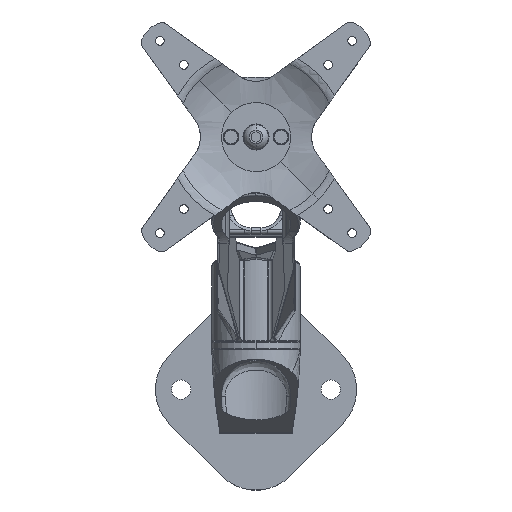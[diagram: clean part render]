
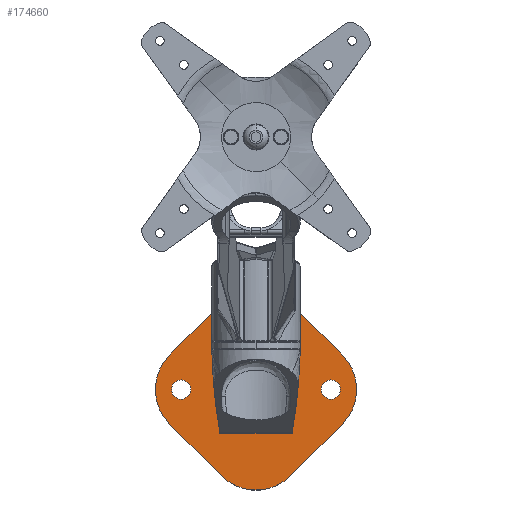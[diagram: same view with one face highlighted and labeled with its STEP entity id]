
A CAD part, top view. The second image highlights one B-rep face of the part: STEP entity #174660.
In plain terms, the highlighted planar face has unit normal (0, 0, 1) as drawn and (0, 0, -1) by its records, which use the part's own axes.
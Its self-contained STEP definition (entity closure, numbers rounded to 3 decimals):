
#174161=CARTESIAN_POINT('',(-38.99,0.,0.));
#174162=DIRECTION('',(0.,0.,-1.));
#174163=DIRECTION('',(1.,0.,0.));
#174164=AXIS2_PLACEMENT_3D('',#174161,#174162,#174163);
#174166=CARTESIAN_POINT('',(-38.99,0.,0.));
#174167=DIRECTION('',(0.,0.,-1.));
#174168=DIRECTION('',(-1.,0.,0.));
#174169=AXIS2_PLACEMENT_3D('',#174166,#174167,#174168);
#174171=CARTESIAN_POINT('',(38.99,0.,0.));
#174172=DIRECTION('',(0.,0.,-1.));
#174173=DIRECTION('',(1.,0.,0.));
#174174=AXIS2_PLACEMENT_3D('',#174171,#174172,#174173);
#174176=CARTESIAN_POINT('',(38.99,0.,0.));
#174177=DIRECTION('',(0.,0.,-1.));
#174178=DIRECTION('',(-1.,0.,0.));
#174179=AXIS2_PLACEMENT_3D('',#174176,#174177,#174178);
#174181=DIRECTION('',(-0.707,-0.707,0.));
#174182=VECTOR('',#174181,38.099);
#174183=CARTESIAN_POINT('',(-17.961,44.901,0.));
#174184=LINE('',#174183,#174182);
#174185=CARTESIAN_POINT('',(-26.94,0.,0.));
#174186=DIRECTION('',(0.,0.,1.));
#174187=DIRECTION('',(-0.707,0.707,0.));
#174188=AXIS2_PLACEMENT_3D('',#174185,#174186,#174187);
#174190=DIRECTION('',(0.707,-0.707,0.));
#174191=VECTOR('',#174190,38.099);
#174192=CARTESIAN_POINT('',(-44.901,-17.961,0.));
#174193=LINE('',#174192,#174191);
#174194=CARTESIAN_POINT('',(0.,-26.94,0.));
#174195=DIRECTION('',(0.,0.,1.));
#174196=DIRECTION('',(-0.707,-0.707,0.));
#174197=AXIS2_PLACEMENT_3D('',#174194,#174195,#174196);
#174199=DIRECTION('',(0.707,0.707,0.));
#174200=VECTOR('',#174199,38.099);
#174201=CARTESIAN_POINT('',(17.961,-44.901,0.));
#174202=LINE('',#174201,#174200);
#174203=CARTESIAN_POINT('',(26.94,0.,0.));
#174204=DIRECTION('',(0.,0.,1.));
#174205=DIRECTION('',(0.707,-0.707,0.));
#174206=AXIS2_PLACEMENT_3D('',#174203,#174204,#174205);
#174208=DIRECTION('',(-0.707,0.707,0.));
#174209=VECTOR('',#174208,38.099);
#174210=CARTESIAN_POINT('',(44.901,17.961,0.));
#174211=LINE('',#174210,#174209);
#174212=CARTESIAN_POINT('',(0.,26.94,0.));
#174213=DIRECTION('',(0.,0.,1.));
#174214=DIRECTION('',(0.707,0.707,0.));
#174215=AXIS2_PLACEMENT_3D('',#174212,#174213,#174214);
#174217=CARTESIAN_POINT('',(-12.,12.,0.));
#174218=DIRECTION('',(0.,0.,1.));
#174219=DIRECTION('',(1.,0.,0.));
#174220=AXIS2_PLACEMENT_3D('',#174217,#174218,#174219);
#174222=CARTESIAN_POINT('',(-12.,12.,0.));
#174223=DIRECTION('',(0.,0.,1.));
#174224=DIRECTION('',(-1.,0.,0.));
#174225=AXIS2_PLACEMENT_3D('',#174222,#174223,#174224);
#174227=CARTESIAN_POINT('',(12.,12.,0.));
#174228=DIRECTION('',(0.,0.,1.));
#174229=DIRECTION('',(1.,0.,0.));
#174230=AXIS2_PLACEMENT_3D('',#174227,#174228,#174229);
#174232=CARTESIAN_POINT('',(12.,12.,0.));
#174233=DIRECTION('',(0.,0.,1.));
#174234=DIRECTION('',(-1.,0.,0.));
#174235=AXIS2_PLACEMENT_3D('',#174232,#174233,#174234);
#174237=CARTESIAN_POINT('',(12.,-12.,0.));
#174238=DIRECTION('',(0.,0.,1.));
#174239=DIRECTION('',(1.,0.,0.));
#174240=AXIS2_PLACEMENT_3D('',#174237,#174238,#174239);
#174242=CARTESIAN_POINT('',(12.,-12.,0.));
#174243=DIRECTION('',(0.,0.,1.));
#174244=DIRECTION('',(-1.,0.,0.));
#174245=AXIS2_PLACEMENT_3D('',#174242,#174243,#174244);
#174247=CARTESIAN_POINT('',(-12.,-12.,0.));
#174248=DIRECTION('',(0.,0.,1.));
#174249=DIRECTION('',(1.,0.,0.));
#174250=AXIS2_PLACEMENT_3D('',#174247,#174248,#174249);
#174252=CARTESIAN_POINT('',(-12.,-12.,0.));
#174253=DIRECTION('',(0.,0.,1.));
#174254=DIRECTION('',(-1.,0.,0.));
#174255=AXIS2_PLACEMENT_3D('',#174252,#174253,#174254);
#174505=CARTESIAN_POINT('',(-33.99,0.,0.));
#174506=CARTESIAN_POINT('',(-43.99,0.,0.));
#174507=VERTEX_POINT('',#174505);
#174508=VERTEX_POINT('',#174506);
#174509=CARTESIAN_POINT('',(43.99,0.,0.));
#174510=CARTESIAN_POINT('',(33.99,0.,0.));
#174511=VERTEX_POINT('',#174509);
#174512=VERTEX_POINT('',#174510);
#174513=CARTESIAN_POINT('',(-17.961,44.901,0.));
#174514=CARTESIAN_POINT('',(-44.901,17.961,0.));
#174515=VERTEX_POINT('',#174513);
#174516=VERTEX_POINT('',#174514);
#174517=CARTESIAN_POINT('',(-44.901,-17.961,0.));
#174518=VERTEX_POINT('',#174517);
#174519=CARTESIAN_POINT('',(-17.961,-44.901,0.));
#174520=VERTEX_POINT('',#174519);
#174521=CARTESIAN_POINT('',(17.961,-44.901,0.));
#174522=VERTEX_POINT('',#174521);
#174523=CARTESIAN_POINT('',(44.901,-17.961,0.));
#174524=VERTEX_POINT('',#174523);
#174525=CARTESIAN_POINT('',(44.901,17.961,0.));
#174526=VERTEX_POINT('',#174525);
#174527=CARTESIAN_POINT('',(17.961,44.901,0.));
#174528=VERTEX_POINT('',#174527);
#174553=CARTESIAN_POINT('',(-8.9,12.,0.));
#174554=CARTESIAN_POINT('',(-15.1,12.,0.));
#174555=VERTEX_POINT('',#174553);
#174556=VERTEX_POINT('',#174554);
#174557=CARTESIAN_POINT('',(15.1,12.,0.));
#174558=CARTESIAN_POINT('',(8.9,12.,0.));
#174559=VERTEX_POINT('',#174557);
#174560=VERTEX_POINT('',#174558);
#174561=CARTESIAN_POINT('',(15.1,-12.,0.));
#174562=CARTESIAN_POINT('',(8.9,-12.,0.));
#174563=VERTEX_POINT('',#174561);
#174564=VERTEX_POINT('',#174562);
#174565=CARTESIAN_POINT('',(-8.9,-12.,0.));
#174566=CARTESIAN_POINT('',(-15.1,-12.,0.));
#174567=VERTEX_POINT('',#174565);
#174568=VERTEX_POINT('',#174566);
#174601=CARTESIAN_POINT('',(0.,0.,0.));
#174602=DIRECTION('',(0.,0.,1.));
#174603=DIRECTION('',(1.,0.,0.));
#174604=AXIS2_PLACEMENT_3D('',#174601,#174602,#174603);
#174605=PLANE('',#174604);
#174607=ORIENTED_EDGE('',*,*,#174606,.T.);
#174609=ORIENTED_EDGE('',*,*,#174608,.T.);
#174611=ORIENTED_EDGE('',*,*,#174610,.T.);
#174613=ORIENTED_EDGE('',*,*,#174612,.T.);
#174615=ORIENTED_EDGE('',*,*,#174614,.T.);
#174617=ORIENTED_EDGE('',*,*,#174616,.T.);
#174619=ORIENTED_EDGE('',*,*,#174618,.T.);
#174621=ORIENTED_EDGE('',*,*,#174620,.T.);
#174622=EDGE_LOOP('',(#174607,#174609,#174611,#174613,#174615,#174617,#174619,
#174621));
#174623=FACE_OUTER_BOUND('',#174622,.F.);
#174625=ORIENTED_EDGE('',*,*,#174624,.T.);
#174627=ORIENTED_EDGE('',*,*,#174626,.T.);
#174628=EDGE_LOOP('',(#174625,#174627));
#174629=FACE_BOUND('',#174628,.F.);
#174631=ORIENTED_EDGE('',*,*,#174630,.T.);
#174633=ORIENTED_EDGE('',*,*,#174632,.T.);
#174634=EDGE_LOOP('',(#174631,#174633));
#174635=FACE_BOUND('',#174634,.F.);
#174637=ORIENTED_EDGE('',*,*,#174636,.F.);
#174639=ORIENTED_EDGE('',*,*,#174638,.F.);
#174640=EDGE_LOOP('',(#174637,#174639));
#174641=FACE_BOUND('',#174640,.F.);
#174643=ORIENTED_EDGE('',*,*,#174642,.F.);
#174645=ORIENTED_EDGE('',*,*,#174644,.F.);
#174646=EDGE_LOOP('',(#174643,#174645));
#174647=FACE_BOUND('',#174646,.F.);
#174649=ORIENTED_EDGE('',*,*,#174648,.F.);
#174651=ORIENTED_EDGE('',*,*,#174650,.F.);
#174652=EDGE_LOOP('',(#174649,#174651));
#174653=FACE_BOUND('',#174652,.F.);
#174655=ORIENTED_EDGE('',*,*,#174654,.F.);
#174657=ORIENTED_EDGE('',*,*,#174656,.F.);
#174658=EDGE_LOOP('',(#174655,#174657));
#174659=FACE_BOUND('',#174658,.F.);
#174660=ADVANCED_FACE('',(#174623,#174629,#174635,#174641,#174647,#174653,
#174659),#174605,.F.);
#174165=CIRCLE('',#174164,5.);
#174170=CIRCLE('',#174169,5.);
#174175=CIRCLE('',#174174,5.);
#174180=CIRCLE('',#174179,5.);
#174189=CIRCLE('',#174188,25.4);
#174198=CIRCLE('',#174197,25.4);
#174207=CIRCLE('',#174206,25.4);
#174216=CIRCLE('',#174215,25.4);
#174221=CIRCLE('',#174220,3.1);
#174226=CIRCLE('',#174225,3.1);
#174231=CIRCLE('',#174230,3.1);
#174236=CIRCLE('',#174235,3.1);
#174241=CIRCLE('',#174240,3.1);
#174246=CIRCLE('',#174245,3.1);
#174251=CIRCLE('',#174250,3.1);
#174256=CIRCLE('',#174255,3.1);
#174606=EDGE_CURVE('',#174515,#174516,#174184,.T.);
#174608=EDGE_CURVE('',#174516,#174518,#174189,.T.);
#174610=EDGE_CURVE('',#174518,#174520,#174193,.T.);
#174612=EDGE_CURVE('',#174520,#174522,#174198,.T.);
#174614=EDGE_CURVE('',#174522,#174524,#174202,.T.);
#174616=EDGE_CURVE('',#174524,#174526,#174207,.T.);
#174618=EDGE_CURVE('',#174526,#174528,#174211,.T.);
#174620=EDGE_CURVE('',#174528,#174515,#174216,.T.);
#174624=EDGE_CURVE('',#174511,#174512,#174175,.T.);
#174626=EDGE_CURVE('',#174512,#174511,#174180,.T.);
#174630=EDGE_CURVE('',#174507,#174508,#174165,.T.);
#174632=EDGE_CURVE('',#174508,#174507,#174170,.T.);
#174636=EDGE_CURVE('',#174555,#174556,#174221,.T.);
#174638=EDGE_CURVE('',#174556,#174555,#174226,.T.);
#174642=EDGE_CURVE('',#174559,#174560,#174231,.T.);
#174644=EDGE_CURVE('',#174560,#174559,#174236,.T.);
#174648=EDGE_CURVE('',#174563,#174564,#174241,.T.);
#174650=EDGE_CURVE('',#174564,#174563,#174246,.T.);
#174654=EDGE_CURVE('',#174567,#174568,#174251,.T.);
#174656=EDGE_CURVE('',#174568,#174567,#174256,.T.);
